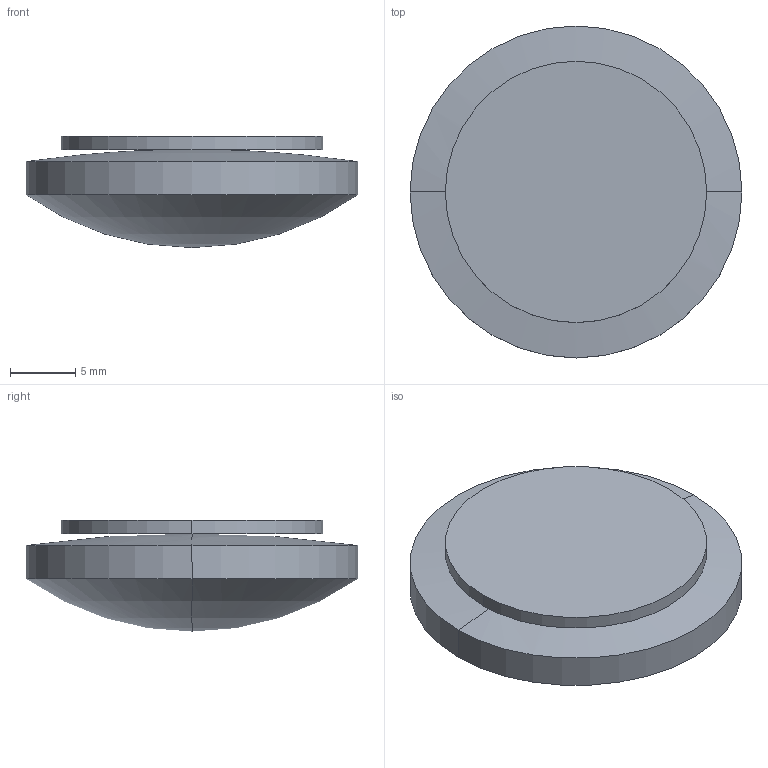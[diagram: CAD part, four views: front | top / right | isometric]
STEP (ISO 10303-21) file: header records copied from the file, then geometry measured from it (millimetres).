
FILE_DESCRIPTION(('STEP AP214'),'1');
FILE_NAME('LLQ-25-40.STEP','2020-03-09T17:41:45',(' '),(' '),'Spatial InterOp 3D',' ',' ');
FILE_SCHEMA(('AUTOMOTIVE_DESIGN { 1 0 10303 214 1 1 1 1 }'));
Length unit declared in the file: millimetre
Products named in the file (1): 1
Bounding box: 25.4 x 25.4 x 8.5 mm (x, y, z)
Volume: 2894.2 mm3; surface area: 1961.6 mm2
Topology: 2 solids, 2 shells, 10 faces, 20 edges, 10 vertices
Faces by surface type: sphere 4, cylinder 4, plane 2
Entity records: 255 total; most frequent: DIRECTION 52, CARTESIAN_POINT 38, ORIENTED_EDGE 32, AXIS2_PLACEMENT_3D 24, EDGE_CURVE 16, CIRCLE 12, ADVANCED_FACE 10, FACE_OUTER_BOUND 10
